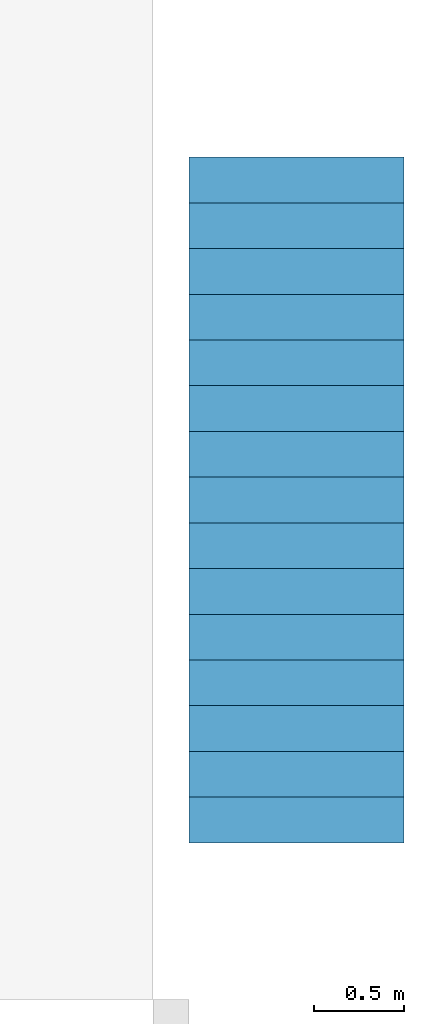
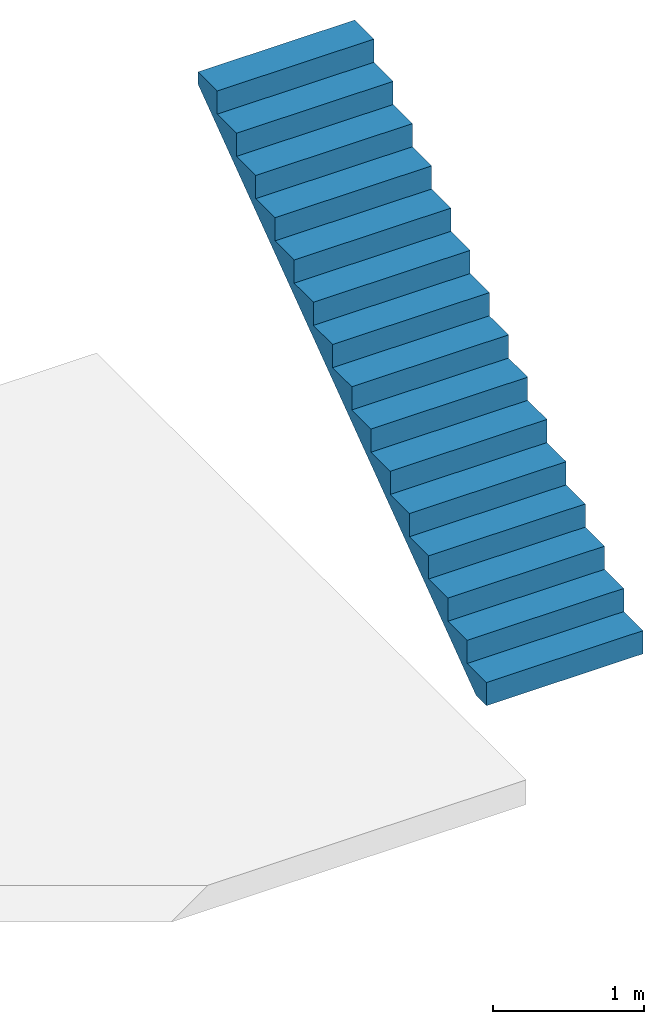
# One storey, part 2 of 2: 1 stair flight, 1 element without a shape of its own.
"""IFC2X3 building model written with IfcOpenShell, lengths in metres."""

from ifc_helpers import new_model, entity, si_unit, converted_unit, derived_unit, direction, frame, origin, place, context, subcontext, project, spatial, faceted_brep, material, element, aggregate, save


model = new_model("IFC2X3")

# Units and contexts
model_context = context("Model", 3, precision=1e-05, world=origin(), true_north=direction((6.12303176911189e-17, 1.0)))
context_of_model = context(None, 3, precision=1e-05, world=origin(), true_north=direction((6.12303176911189e-17, 1.0)))
body_context = subcontext(model_context, "Body", "Model", "MODEL_VIEW")
ifc_project = project(units=[si_unit("LENGTHUNIT", "METRE"), si_unit("AREAUNIT", "SQUARE_METRE"), si_unit("VOLUMEUNIT", "CUBIC_METRE"), converted_unit("PLANEANGLEUNIT", "DEGREE", entity("IfcRatioMeasure", 0.0174532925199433), si_unit("PLANEANGLEUNIT", "RADIAN"), dimensions=[0, 0, 0, 0, 0, 0, 0]), si_unit("MASSUNIT", "GRAM", prefix="KILO"), si_unit("TIMEUNIT", "SECOND"), si_unit("FREQUENCYUNIT", "HERTZ"), si_unit("THERMODYNAMICTEMPERATUREUNIT", "DEGREE_CELSIUS"), derived_unit("THERMALTRANSMITTANCEUNIT", [(si_unit("MASSUNIT", "GRAM", prefix="KILO"), 1), (si_unit("THERMODYNAMICTEMPERATUREUNIT", "KELVIN"), -1), (si_unit("TIMEUNIT", "SECOND"), -3)]), derived_unit("VOLUMETRICFLOWRATEUNIT", [(si_unit("LENGTHUNIT", "METRE"), 3), (si_unit("TIMEUNIT", "SECOND"), -1)]), si_unit("ELECTRICCURRENTUNIT", "AMPERE"), si_unit("ELECTRICVOLTAGEUNIT", "VOLT"), si_unit("POWERUNIT", "WATT"), si_unit("FORCEUNIT", "NEWTON", prefix="KILO"), si_unit("ILLUMINANCEUNIT", "LUX"), si_unit("LUMINOUSFLUXUNIT", "LUMEN"), si_unit("LUMINOUSINTENSITYUNIT", "CANDELA"), si_unit("PRESSUREUNIT", "PASCAL")], contexts=[model_context, context_of_model])

# Site, building, storey
site_placement = place(None, origin())
site = spatial("IfcSite", under=ifc_project, at=site_placement, Name="Default", CompositionType="ELEMENT")
building_placement = place(site_placement, origin())
building = spatial("IfcBuilding", under=site, at=building_placement, CompositionType="ELEMENT")
storey_placement = place(building_placement, origin())
storey = spatial("IfcBuildingStorey", under=building, at=storey_placement, Name="3 - Sous sol", CompositionType="ELEMENT", Elevation=0.0)

# Stair, stair flight
stair_placement = place(storey_placement, origin())
stair = element("IfcStair", 1, at=stair_placement, inside=storey, Name="Escalier coulé sur place:Escalier", ObjectType="Escalier coulé sur place:Monobloc", ShapeType="NOTDEFINED")
ifc_material = material(Name="Maçonnerie - Béton")
stair_flight_placement = place(stair_placement, frame((7.0462853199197, 0.703315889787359, 0.0)))
stair_flight = element("IfcStairFlight", 2, at=stair_flight_placement, material=ifc_material, Name="Escalier coulé sur place:Escalier:244176 Run 1", ObjectType="Escalier coulé sur place:Monobloc", NumberOfRiser=16, NumberOfTreads=15, RiserHeight=0.615157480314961, TreadLength=0.836614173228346, context=body_context, shape_type="Brep", body=[
    faceted_brep([(0.0, 0.255000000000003, 0.1875), (0.0, 0.0, 0.1875), (1.2, 0.0, 0.1875), (1.2, 0.254999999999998, 0.1875), (0.0, 0.255000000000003, 0.0882014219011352), (0.0, 0.135046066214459, 0.0), (0.0, 0.0, 0.0), (1.2, 0.0, 0.0), (1.2, 0.135046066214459, 0.0), (1.2, 0.254999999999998, 0.0882014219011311), (0.0, 0.51, 0.375), (0.0, 0.254999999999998, 0.375), (1.2, 0.254999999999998, 0.375), (1.2, 0.509999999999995, 0.375), (0.0, 0.51, 0.275701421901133), (1.2, 0.509999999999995, 0.275701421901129), (0.0, 0.765, 0.5625), (0.0, 0.509999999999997, 0.5625), (1.2, 0.509999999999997, 0.5625), (1.2, 0.764999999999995, 0.5625), (0.0, 0.765, 0.463201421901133), (1.2, 0.764999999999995, 0.463201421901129), (0.0, 1.02, 0.75), (0.0, 0.765, 0.75), (1.2, 0.765, 0.75), (1.2, 1.02, 0.75), (0.0, 1.02, 0.650701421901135), (1.2, 1.02, 0.650701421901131), (0.0, 1.275, 0.9375), (0.0, 1.02, 0.9375), (1.2, 1.02, 0.9375), (1.2, 1.275, 0.9375), (0.0, 1.275, 0.838201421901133), (1.2, 1.275, 0.838201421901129), (0.0, 1.53, 1.125), (0.0, 1.275, 1.125), (1.2, 1.275, 1.125), (1.2, 1.53, 1.125), (0.0, 1.53, 1.02570142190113), (1.2, 1.53, 1.02570142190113), (0.0, 1.785, 1.3125), (0.0, 1.53, 1.3125), (1.2, 1.53, 1.3125), (1.2, 1.78499999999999, 1.3125), (0.0, 1.785, 1.21320142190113), (1.2, 1.78499999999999, 1.21320142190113), (0.0, 2.04, 1.5), (0.0, 1.785, 1.5), (1.2, 1.785, 1.5), (1.2, 2.04, 1.5), (0.0, 2.04, 1.40070142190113), (1.2, 2.03999999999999, 1.40070142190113), (0.0, 2.295, 1.6875), (0.0, 2.04, 1.6875), (1.2, 2.04, 1.6875), (1.2, 2.295, 1.6875), (0.0, 2.295, 1.58820142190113), (1.2, 2.295, 1.58820142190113), (0.0, 2.55, 1.875), (0.0, 2.295, 1.875), (1.2, 2.295, 1.875), (1.2, 2.55, 1.875), (0.0, 2.55, 1.77570142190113), (1.2, 2.54999999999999, 1.77570142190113), (0.0, 2.805, 2.0625), (0.0, 2.55, 2.0625), (1.2, 2.55, 2.0625), (1.2, 2.805, 2.0625), (0.0, 2.805, 1.96320142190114), (1.2, 2.805, 1.96320142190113), (0.0, 3.06, 2.25), (0.0, 2.805, 2.25), (1.20000000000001, 2.805, 2.25), (1.20000000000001, 3.06, 2.25), (0.0, 3.06, 2.15070142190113), (1.20000000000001, 3.05999999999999, 2.15070142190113), (0.0, 3.315, 2.4375), (0.0, 3.06, 2.4375), (1.20000000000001, 3.06, 2.4375), (1.20000000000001, 3.315, 2.4375), (0.0, 3.315, 2.33820142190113), (1.20000000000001, 3.31499999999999, 2.33820142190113), (0.0, 3.57, 2.625), (0.0, 3.315, 2.625), (1.20000000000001, 3.315, 2.625), (1.20000000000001, 3.57, 2.625), (0.0, 3.57, 2.52570142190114), (1.20000000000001, 3.57, 2.52570142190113), (0.0, 3.825, 2.8125), (0.0, 3.57, 2.8125), (1.20000000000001, 3.57, 2.8125), (1.20000000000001, 3.825, 2.8125), (0.0, 3.825, 2.71320142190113), (1.20000000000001, 3.82499999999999, 2.71320142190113)], [[[0, 1, 2, 3]], [[1, 0, 4, 5, 6]], [[2, 1, 6, 7]], [[3, 2, 7, 8, 9]], [[10, 11, 12, 13]], [[11, 10, 14, 4, 0]], [[0, 3, 12, 11]], [[13, 12, 3, 9, 15]], [[16, 17, 18, 19]], [[17, 16, 20, 14, 10]], [[10, 13, 18, 17]], [[19, 18, 13, 15, 21]], [[22, 23, 24, 25]], [[23, 22, 26, 20, 16]], [[16, 19, 24, 23]], [[25, 24, 19, 21, 27]], [[28, 29, 30, 31]], [[29, 28, 32, 26, 22]], [[22, 25, 30, 29]], [[31, 30, 25, 27, 33]], [[34, 35, 36, 37]], [[35, 34, 38, 32, 28]], [[28, 31, 36, 35]], [[37, 36, 31, 33, 39]], [[40, 41, 42, 43]], [[41, 40, 44, 38, 34]], [[34, 37, 42, 41]], [[43, 42, 37, 39, 45]], [[46, 47, 48, 49]], [[47, 46, 50, 44, 40]], [[40, 43, 48, 47]], [[49, 48, 43, 45, 51]], [[52, 53, 54, 55]], [[53, 52, 56, 50, 46]], [[46, 49, 54, 53]], [[55, 54, 49, 51, 57]], [[58, 59, 60, 61]], [[59, 58, 62, 56, 52]], [[52, 55, 60, 59]], [[61, 60, 55, 57, 63]], [[64, 65, 66, 67]], [[65, 64, 68, 62, 58]], [[58, 61, 66, 65]], [[67, 66, 61, 63, 69]], [[70, 71, 72, 73]], [[71, 70, 74, 68, 64]], [[64, 67, 72, 71]], [[73, 72, 67, 69, 75]], [[76, 77, 78, 79]], [[77, 76, 80, 74, 70]], [[70, 73, 78, 77]], [[79, 78, 73, 75, 81]], [[82, 83, 84, 85]], [[83, 82, 86, 80, 76]], [[76, 79, 84, 83]], [[85, 84, 79, 81, 87]], [[88, 89, 90, 91]], [[89, 88, 92, 86, 82]], [[82, 85, 90, 89]], [[91, 90, 85, 87, 93]], [[88, 91, 93, 92]], [[7, 6, 5, 8]], [[8, 5, 4, 14, 20, 26, 32, 38, 44, 50, 56, 62, 68, 74, 80, 86, 92, 93, 87, 81, 75, 69, 63, 57, 51, 45, 39, 33, 27, 21, 15, 9]]]),
])
aggregate(stair, [stair_flight])

save(model, "model.ifc")
